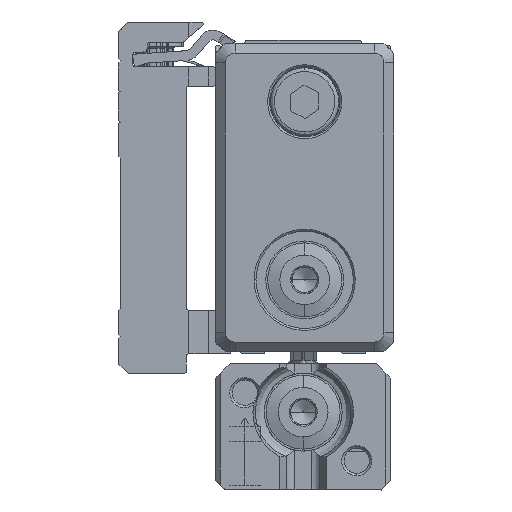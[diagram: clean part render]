
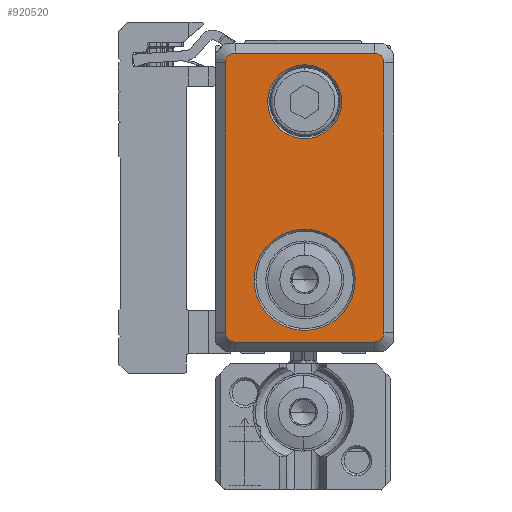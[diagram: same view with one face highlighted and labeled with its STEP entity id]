
A CAD part, left-side view. The second image highlights one B-rep face of the part: STEP entity #920520.
In plain terms, the highlighted planar face has unit normal (-1, 0, 0).
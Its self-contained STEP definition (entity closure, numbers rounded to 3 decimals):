
#910410=CARTESIAN_POINT('',(-527.138,31.,
-50.583));
#910420=VERTEX_POINT('',#910410);
#911230=CARTESIAN_POINT('',(-527.138,30.,
-51.583));
#911240=VERTEX_POINT('',#911230);
#911270=CARTESIAN_POINT('',(-527.138,31.,
-51.583));
#911280=DIRECTION('',(1.,0.,0.));
#911290=DIRECTION('',(0.,1.,0.));
#911300=AXIS2_PLACEMENT_3D('',#911270,#911280,#911290);
#911310=CIRCLE('',#911300,1.);
#911320=EDGE_CURVE('',#910420,#911240,#911310,.T.);
#919570=CARTESIAN_POINT('',(-527.138,38.15,
-65.583));
#919580=DIRECTION('',(1.,0.,0.));
#919590=DIRECTION('',(0.,1.,0.));
#919600=AXIS2_PLACEMENT_3D('',#919570,#919580,#919590);
#919610=PLANE('',#919600);
#919620=CARTESIAN_POINT('',(-527.138,38.15,
-56.983));
#919630=DIRECTION('',(1.,0.,0.));
#919640=DIRECTION('',(0.,-1.,0.));
#919650=AXIS2_PLACEMENT_3D('',#919620,#919630,#919640);
#919660=CIRCLE('',#919650,5.2);
#919670=CARTESIAN_POINT('',(-527.138,32.95,
-56.983));
#919680=VERTEX_POINT('',#919670);
#919690=CARTESIAN_POINT('',(-527.138,43.35,
-56.983));
#919700=VERTEX_POINT('',#919690);
#919710=EDGE_CURVE('',#919680,#919700,#919660,.T.);
#919720=ORIENTED_EDGE('',*,*,#919710,.T.);
#919730=EDGE_CURVE('',#919700,#919680,#919660,.T.);
#919740=ORIENTED_EDGE('',*,*,#919730,.T.);
#919750=EDGE_LOOP('',(#919740,#919720));
#919760=FACE_BOUND('',#919750,.T.);
#919770=CARTESIAN_POINT('',(-527.138,38.15,
-75.283));
#919780=DIRECTION('',(-1.,0.,0.));
#919790=DIRECTION('',(0.,1.,0.));
#919800=AXIS2_PLACEMENT_3D('',#919770,#919780,#919790);
#919810=CIRCLE('',#919800,3.8);
#919820=CARTESIAN_POINT('',(-527.138,34.35,
-75.283));
#919830=VERTEX_POINT('',#919820);
#919840=CARTESIAN_POINT('',(-527.138,41.95,
-75.283));
#919850=VERTEX_POINT('',#919840);
#919860=EDGE_CURVE('',#919830,#919850,#919810,.T.);
#919870=ORIENTED_EDGE('',*,*,#919860,.F.);
#919880=EDGE_CURVE('',#919850,#919830,#919810,.T.);
#919890=ORIENTED_EDGE('',*,*,#919880,.F.);
#919900=EDGE_LOOP('',(#919890,#919870));
#919910=FACE_BOUND('',#919900,.T.);
#919920=CARTESIAN_POINT('',(-527.138,46.75,
-80.283));
#919930=DIRECTION('',(0.,-1.,0.));
#919940=VECTOR('',#919930,1.);
#919950=LINE('',#919920,#919940);
#919960=CARTESIAN_POINT('',(-527.138,45.3,
-80.283));
#919970=VERTEX_POINT('',#919960);
#919980=CARTESIAN_POINT('',(-527.138,31.,
-80.283));
#919990=VERTEX_POINT('',#919980);
#920000=EDGE_CURVE('',#919970,#919990,#919950,.T.);
#920010=ORIENTED_EDGE('',*,*,#920000,.T.);
#920020=CARTESIAN_POINT('',(-527.138,45.3,
-79.283));
#920030=DIRECTION('',(1.,0.,0.));
#920040=DIRECTION('',(0.,1.,0.));
#920050=AXIS2_PLACEMENT_3D('',#920020,#920030,#920040);
#920060=CIRCLE('',#920050,1.);
#920070=CARTESIAN_POINT('',(-527.138,46.3,
-79.283));
#920080=VERTEX_POINT('',#920070);
#920090=EDGE_CURVE('',#919970,#920080,#920060,.T.);
#920100=ORIENTED_EDGE('',*,*,#920090,.F.);
#920110=CARTESIAN_POINT('',(-527.138,46.3,
-49.133));
#920120=DIRECTION('',(0.,0.,-1.));
#920130=VECTOR('',#920120,1.);
#920140=LINE('',#920110,#920130);
#920150=CARTESIAN_POINT('',(-527.138,46.3,
-51.583));
#920160=VERTEX_POINT('',#920150);
#920170=EDGE_CURVE('',#920160,#920080,#920140,.T.);
#920180=ORIENTED_EDGE('',*,*,#920170,.T.);
#920190=CARTESIAN_POINT('',(-527.138,45.3,
-51.583));
#920200=DIRECTION('',(1.,0.,0.));
#920210=DIRECTION('',(0.,1.,0.));
#920220=AXIS2_PLACEMENT_3D('',#920190,#920200,#920210);
#920230=CIRCLE('',#920220,1.);
#920240=CARTESIAN_POINT('',(-527.138,45.3,
-50.583));
#920250=VERTEX_POINT('',#920240);
#920260=EDGE_CURVE('',#920160,#920250,#920230,.T.);
#920270=ORIENTED_EDGE('',*,*,#920260,.F.);
#920280=CARTESIAN_POINT('',(-527.138,46.75,
-50.583));
#920290=DIRECTION('',(0.,1.,0.));
#920300=VECTOR('',#920290,1.);
#920310=LINE('',#920280,#920300);
#920320=EDGE_CURVE('',#910420,#920250,#920310,.T.);
#920330=ORIENTED_EDGE('',*,*,#920320,.T.);
#920340=ORIENTED_EDGE('',*,*,#911320,.F.);
#920350=CARTESIAN_POINT('',(-527.138,30.,
-49.133));
#920360=DIRECTION('',(0.,0.,1.));
#920370=VECTOR('',#920360,1.);
#920380=LINE('',#920350,#920370);
#920390=CARTESIAN_POINT('',(-527.138,30.,
-79.283));
#920400=VERTEX_POINT('',#920390);
#920410=EDGE_CURVE('',#920400,#911240,#920380,.T.);
#920420=ORIENTED_EDGE('',*,*,#920410,.T.);
#920430=CARTESIAN_POINT('',(-527.138,31.,
-79.283));
#920440=DIRECTION('',(1.,0.,0.));
#920450=DIRECTION('',(0.,1.,0.));
#920460=AXIS2_PLACEMENT_3D('',#920430,#920440,#920450);
#920470=CIRCLE('',#920460,1.);
#920480=EDGE_CURVE('',#920400,#919990,#920470,.T.);
#920490=ORIENTED_EDGE('',*,*,#920480,.F.);
#920500=EDGE_LOOP('',(#920490,#920420,#920340,#920330,#920270,#920180,
#920100,#920010));
#920510=FACE_OUTER_BOUND('',#920500,.T.);
#920520=ADVANCED_FACE('',(#919760,#919910,#920510),#919610,.F.);
